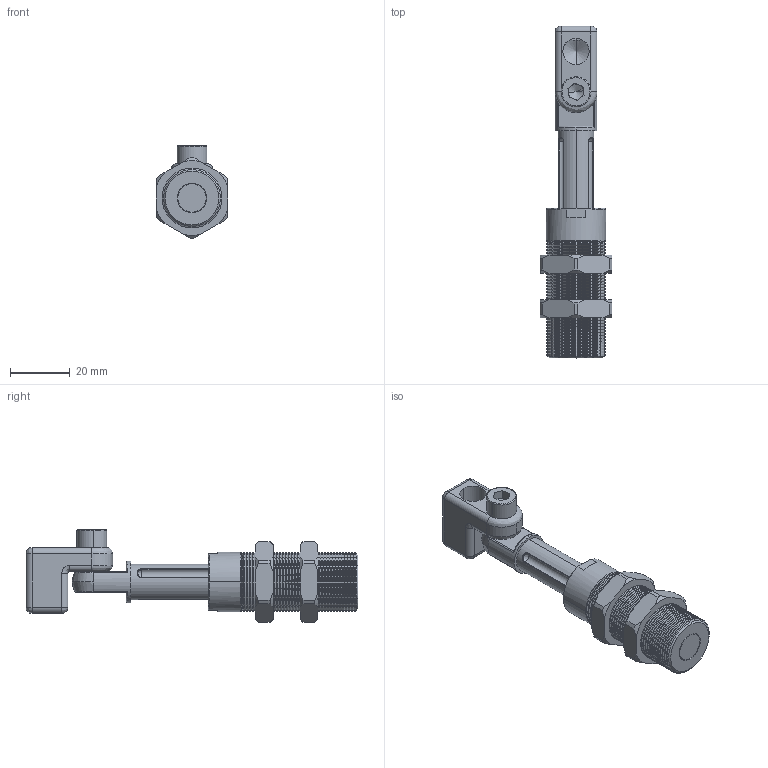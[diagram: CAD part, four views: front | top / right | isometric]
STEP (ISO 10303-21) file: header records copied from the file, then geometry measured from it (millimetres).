
FILE_DESCRIPTION (( 'STEP AP214' ), '1' );
FILE_NAME ('VFET2026-G18.STEP', '2019-11-15T08:03:57', ( '微软用户' ), ( '微软中国' ), 'SwSTEP 2.0', 'SolidWorks 2016', '' );
FILE_SCHEMA (( 'AUTOMOTIVE_DESIGN' ));
Length unit declared in the file: millimetre
Products named in the file (1): VFET2026-G18
Bounding box: 24 x 111 x 31 mm (x, y, z)
Volume: 25256.4 mm3; surface area: 18030.3 mm2
Topology: 7 solids, 7 shells, 539 faces, 1221 edges, 697 vertices
Faces by surface type: cone 234, cylinder 195, plane 67, bspline 43
Entity records: 27330 total; most frequent: CARTESIAN_POINT 9637, DIRECTION 2502, ORIENTED_EDGE 2418, EDGE_CURVE 1209, AXIS2_PLACEMENT_3D 1000, VERTEX_POINT 697, EDGE_LOOP 572, UNCERTAINTY_MEASURE_WITH_UNIT 548
